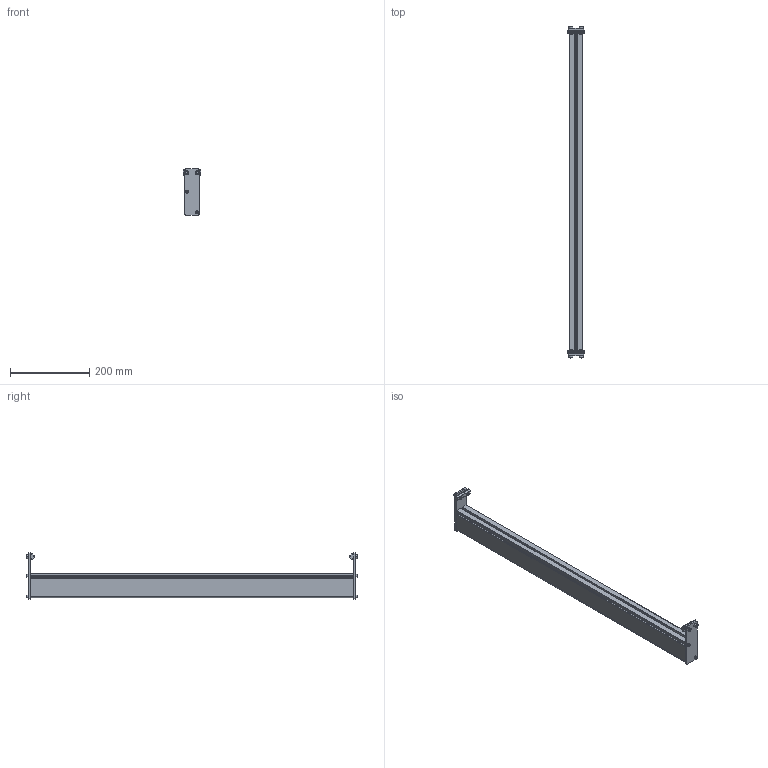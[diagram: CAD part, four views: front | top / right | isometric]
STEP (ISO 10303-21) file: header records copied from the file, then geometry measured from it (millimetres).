
FILE_DESCRIPTION((''),'2;1');
FILE_NAME('350974-32_ASM','2023-03-22T',('jenni.wallner'),(''),'PRO/ENGINEER BY PARAMETRIC TECHNOLOGY CORPORATION, 2012420','PRO/ENGINEER BY PARAMETRIC TECHNOLOGY CORPORATION, 2012420','');
FILE_SCHEMA(('CONFIG_CONTROL_DESIGN'));
Length unit declared in the file: inch
Products named in the file (6): 350979-03220; 350978; 200830M; 920616M; 920416M; 350974-32_ASM
Assembly tree (13 placements, depth 2):
  350974-32_ASM
    350979-03220
    350978  x2
    200830M  x2
    920616M  x4
    920416M  x4
Bounding box: 44.45 x 838.97 x 116.98 mm (x, y, z)
Volume: 695066.3 mm3; surface area: 443533 mm2
Topology: 13 solids, 17 shells, 342 faces, 868 edges, 568 vertices
Faces by surface type: plane 168, cylinder 142, cone 32
Entity records: 5990 total; most frequent: DIRECTION 1076, CARTESIAN_POINT 1015, ORIENTED_EDGE 972, EDGE_CURVE 490, AXIS2_PLACEMENT_3D 385, VERTEX_POINT 324, VECTOR 306, LINE 306
